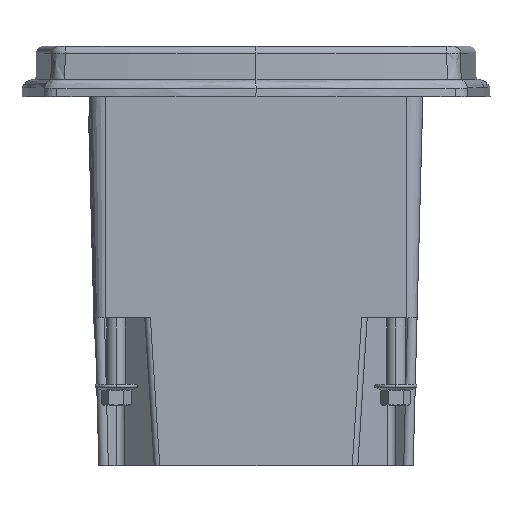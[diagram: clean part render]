
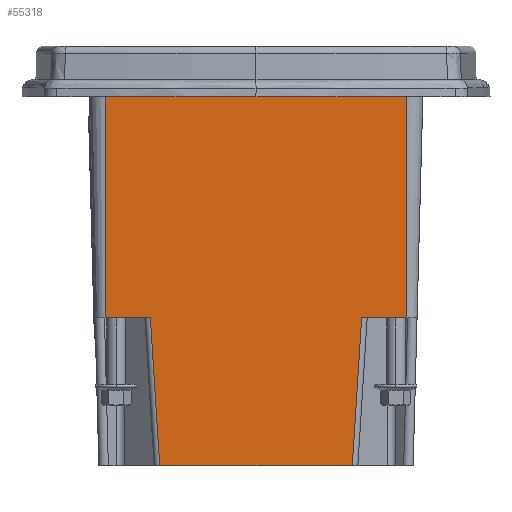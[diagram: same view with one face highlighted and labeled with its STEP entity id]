
A CAD part, left-side view. The second image highlights one B-rep face of the part: STEP entity #55318.
In plain terms, the highlighted planar face has unit normal (-1, 0, -0.026).
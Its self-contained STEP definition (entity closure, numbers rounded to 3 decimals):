
#690 = VECTOR ( 'NONE', #26878, 1000. ) ;
#1446 = CARTESIAN_POINT ( 'NONE',  ( -92., 40.5, 0. ) ) ;
#2932 = CARTESIAN_POINT ( 'NONE',  ( -89.381, -25.966, -100. ) ) ;
#2943 = VECTOR ( 'NONE', #41784, 1000. ) ;
#3371 = EDGE_CURVE ( 'NONE', #14673, #13293, #16311, .T. ) ;
#3663 = DIRECTION ( 'NONE',  ( 0., 1., 0. ) ) ;
#4597 = CARTESIAN_POINT ( 'NONE',  ( -90.429, -40.5, -60. ) ) ;
#6635 = DIRECTION ( 'NONE',  ( 0., 1., 0. ) ) ;
#6796 = ORIENTED_EDGE ( 'NONE', *, *, #46465, .T. ) ;
#8675 = DIRECTION ( 'NONE',  ( 0.026, 0., -1. ) ) ;
#9348 = VERTEX_POINT ( 'NONE', #59356 ) ;
#9627 = EDGE_CURVE ( 'NONE', #46523, #9348, #13376, .T. ) ;
#10921 = ORIENTED_EDGE ( 'NONE', *, *, #47993, .T. ) ;
#11539 = CARTESIAN_POINT ( 'NONE',  ( -90.435, 28.509, -59.772 ) ) ;
#12249 = VECTOR ( 'NONE', #33947, 1000. ) ;
#12890 = CARTESIAN_POINT ( 'NONE',  ( -92., 45., 0. ) ) ;
#13084 = VECTOR ( 'NONE', #59409, 1000. ) ;
#13216 = LINE ( 'NONE', #12890, #42392 ) ;
#13293 = VERTEX_POINT ( 'NONE', #54103 ) ;
#13376 = LINE ( 'NONE', #47205, #2943 ) ;
#14154 = CARTESIAN_POINT ( 'NONE',  ( -90.429, -40.5, -60. ) ) ;
#14415 = VECTOR ( 'NONE', #62913, 1000. ) ;
#14458 = CARTESIAN_POINT ( 'NONE',  ( -90.435, -28.509, -59.772 ) ) ;
#14673 = VERTEX_POINT ( 'NONE', #59921 ) ;
#15991 = ORIENTED_EDGE ( 'NONE', *, *, #55005, .F. ) ;
#16311 = LINE ( 'NONE', #11539, #13084 ) ;
#16823 = EDGE_CURVE ( 'NONE', #55241, #14673, #31526, .T. ) ;
#19113 = VERTEX_POINT ( 'NONE', #48909 ) ;
#22092 = ORIENTED_EDGE ( 'NONE', *, *, #3371, .F. ) ;
#23042 = DIRECTION ( 'NONE',  ( -1., 0., -0.026 ) ) ;
#26878 = DIRECTION ( 'NONE',  ( 0., -1., 0. ) ) ;
#26881 = ORIENTED_EDGE ( 'NONE', *, *, #29810, .F. ) ;
#28511 = LINE ( 'NONE', #14458, #12249 ) ;
#28521 = DIRECTION ( 'NONE',  ( 0., 1., 0. ) ) ;
#28672 = EDGE_LOOP ( 'NONE', ( #22092, #57733, #42899, #15991, #44593, #6796, #26881, #10921 ) ) ;
#29088 = CARTESIAN_POINT ( 'NONE',  ( -92., 45., 0. ) ) ;
#29810 = EDGE_CURVE ( 'NONE', #40690, #47513, #58746, .T. ) ;
#31526 = LINE ( 'NONE', #50057, #38294 ) ;
#31659 = LINE ( 'NONE', #46040, #690 ) ;
#33947 = DIRECTION ( 'NONE',  ( -0.026, -0.063, 0.998 ) ) ;
#34505 = CARTESIAN_POINT ( 'NONE',  ( -92., 40.5, 0. ) ) ;
#37731 = PLANE ( 'NONE',  #57219 ) ;
#38294 = VECTOR ( 'NONE', #6635, 1000. ) ;
#39318 = CARTESIAN_POINT ( 'NONE',  ( -90.429, 40.5, -60. ) ) ;
#40690 = VERTEX_POINT ( 'NONE', #39318 ) ;
#41784 = DIRECTION ( 'NONE',  ( -0.026, 0., 1. ) ) ;
#42202 = FACE_OUTER_BOUND ( 'NONE', #28672, .T. ) ;
#42392 = VECTOR ( 'NONE', #28521, 1000. ) ;
#42899 = ORIENTED_EDGE ( 'NONE', *, *, #60343, .T. ) ;
#44593 = ORIENTED_EDGE ( 'NONE', *, *, #9627, .T. ) ;
#46040 = CARTESIAN_POINT ( 'NONE',  ( -90.429, 40.5, -60. ) ) ;
#46465 = EDGE_CURVE ( 'NONE', #9348, #47513, #13216, .T. ) ;
#46523 = VERTEX_POINT ( 'NONE', #14154 ) ;
#46966 = VECTOR ( 'NONE', #3663, 1000. ) ;
#47205 = CARTESIAN_POINT ( 'NONE',  ( -92., -40.5, 0. ) ) ;
#47513 = VERTEX_POINT ( 'NONE', #1446 ) ;
#47993 = EDGE_CURVE ( 'NONE', #40690, #13293, #31659, .T. ) ;
#48909 = CARTESIAN_POINT ( 'NONE',  ( -90.429, -28.495, -60. ) ) ;
#50057 = CARTESIAN_POINT ( 'NONE',  ( -89.381, 0., -100. ) ) ;
#54103 = CARTESIAN_POINT ( 'NONE',  ( -90.429, 28.495, -60. ) ) ;
#55005 = EDGE_CURVE ( 'NONE', #46523, #19113, #58217, .T. ) ;
#55241 = VERTEX_POINT ( 'NONE', #2932 ) ;
#55318 = ADVANCED_FACE ( 'NONE', ( #42202 ), #37731, .T. ) ;
#57219 = AXIS2_PLACEMENT_3D ( 'NONE', #29088, #23042, #8675 ) ;
#57733 = ORIENTED_EDGE ( 'NONE', *, *, #16823, .F. ) ;
#58217 = LINE ( 'NONE', #4597, #46966 ) ;
#58746 = LINE ( 'NONE', #34505, #14415 ) ;
#59356 = CARTESIAN_POINT ( 'NONE',  ( -92., -40.5, 0. ) ) ;
#59409 = DIRECTION ( 'NONE',  ( -0.026, 0.063, 0.998 ) ) ;
#59921 = CARTESIAN_POINT ( 'NONE',  ( -89.381, 25.966, -100. ) ) ;
#60343 = EDGE_CURVE ( 'NONE', #55241, #19113, #28511, .T. ) ;
#62913 = DIRECTION ( 'NONE',  ( -0.026, 0., 1. ) ) ;
